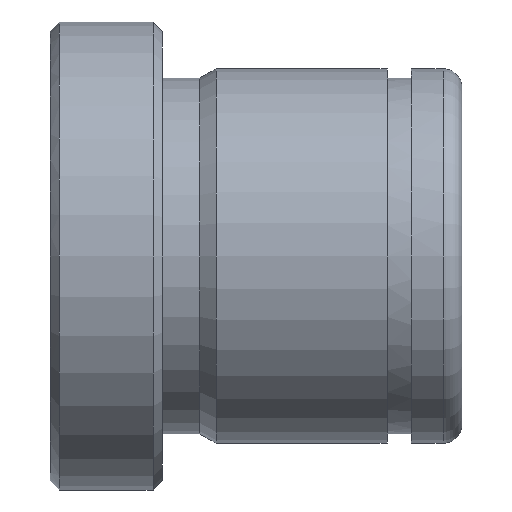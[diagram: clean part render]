
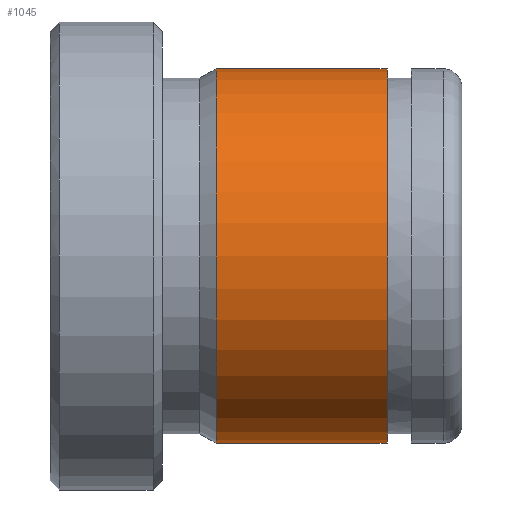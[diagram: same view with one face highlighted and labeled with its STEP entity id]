
A CAD part, front view. The second image highlights one B-rep face of the part: STEP entity #1045.
In plain terms, the highlighted cylindrical face has radius 10 mm (diameter 20 mm), a partial arc.
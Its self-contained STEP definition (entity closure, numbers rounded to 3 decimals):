
#851=CARTESIAN_POINT('Vertex',(8.866,0.,-10.)) ;
#858=CARTESIAN_POINT('Vertex',(8.866,0.,10.)) ;
#887=CARTESIAN_POINT('Axis2P3D Location',(8.866,0.,0.)) ;
#891=CARTESIAN_POINT('Vertex',(8.866,-10.,0.)) ;
#894=CARTESIAN_POINT('Axis2P3D Location',(8.866,0.,0.)) ;
#985=CARTESIAN_POINT('Line Origine',(44.,0.,10.)) ;
#989=CARTESIAN_POINT('Vertex',(18.,0.,10.)) ;
#1003=CARTESIAN_POINT('Vertex',(18.,0.,-10.)) ;
#1006=CARTESIAN_POINT('Line Origine',(44.,0.,-10.)) ;
#1020=CARTESIAN_POINT('Axis2P3D Location',(44.,0.,0.)) ;
#1025=CARTESIAN_POINT('Axis2P3D Location',(18.,0.,0.)) ;
#1029=CARTESIAN_POINT('Vertex',(18.,-10.,0.)) ;
#1032=CARTESIAN_POINT('Axis2P3D Location',(18.,0.,0.)) ;
#888=DIRECTION('Axis2P3D Direction',(1.,0.,-0.)) ;
#895=DIRECTION('Axis2P3D Direction',(1.,0.,-0.)) ;
#986=DIRECTION('Vector Direction',(-1.,0.,0.)) ;
#1007=DIRECTION('Vector Direction',(-1.,0.,0.)) ;
#1021=DIRECTION('Axis2P3D Direction',(-1.,-0.,-0.)) ;
#1022=DIRECTION('Axis2P3D XDirection',(0.,0.,-1.)) ;
#1026=DIRECTION('Axis2P3D Direction',(-1.,-0.,-0.)) ;
#1033=DIRECTION('Axis2P3D Direction',(-1.,-0.,-0.)) ;
#889=AXIS2_PLACEMENT_3D('Circle Axis2P3D',#887,#888,$) ;
#896=AXIS2_PLACEMENT_3D('Circle Axis2P3D',#894,#895,$) ;
#1023=AXIS2_PLACEMENT_3D('Cylinder Axis2P3D',#1020,#1021,#1022) ;
#1027=AXIS2_PLACEMENT_3D('Circle Axis2P3D',#1025,#1026,$) ;
#1034=AXIS2_PLACEMENT_3D('Circle Axis2P3D',#1032,#1033,$) ;
#1038=ORIENTED_EDGE('',*,*,#1010,.T.) ;
#1039=ORIENTED_EDGE('',*,*,#1031,.F.) ;
#1040=ORIENTED_EDGE('',*,*,#1036,.F.) ;
#1041=ORIENTED_EDGE('',*,*,#991,.T.) ;
#1042=ORIENTED_EDGE('',*,*,#898,.T.) ;
#1043=ORIENTED_EDGE('',*,*,#893,.T.) ;
#987=VECTOR('Line Direction',#986,1.) ;
#1008=VECTOR('Line Direction',#1007,1.) ;
#1045=ADVANCED_FACE('553-14x22',(#1044),#1024,.T.) ;
#890=CIRCLE('generated circle',#889,10.) ;
#897=CIRCLE('generated circle',#896,10.) ;
#1028=CIRCLE('generated circle',#1027,10.) ;
#1035=CIRCLE('generated circle',#1034,10.) ;
#1024=CYLINDRICAL_SURFACE('generated cylinder',#1023,10.) ;
#893=EDGE_CURVE('',#892,#852,#890,.T.) ;
#898=EDGE_CURVE('',#859,#892,#897,.T.) ;
#991=EDGE_CURVE('',#990,#859,#988,.T.) ;
#1010=EDGE_CURVE('',#852,#1004,#1009,.F.) ;
#1031=EDGE_CURVE('',#1030,#1004,#1028,.F.) ;
#1036=EDGE_CURVE('',#990,#1030,#1035,.F.) ;
#1037=EDGE_LOOP('',(#1038,#1039,#1040,#1041,#1042,#1043)) ;
#1044=FACE_OUTER_BOUND('',#1037,.T.) ;
#988=LINE('Line',#985,#987) ;
#1009=LINE('Line',#1006,#1008) ;
#852=VERTEX_POINT('',#851) ;
#859=VERTEX_POINT('',#858) ;
#892=VERTEX_POINT('',#891) ;
#990=VERTEX_POINT('',#989) ;
#1004=VERTEX_POINT('',#1003) ;
#1030=VERTEX_POINT('',#1029) ;
